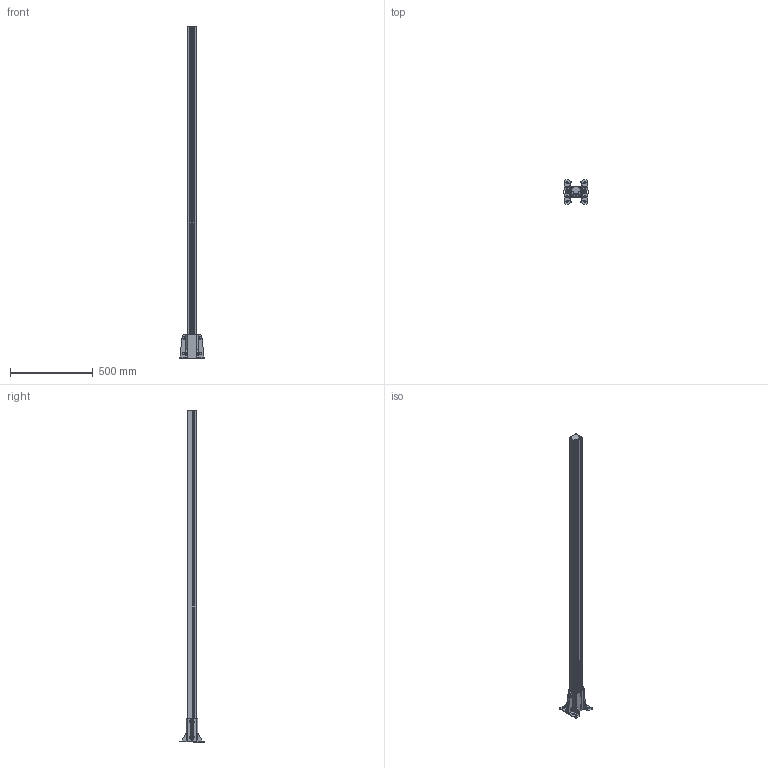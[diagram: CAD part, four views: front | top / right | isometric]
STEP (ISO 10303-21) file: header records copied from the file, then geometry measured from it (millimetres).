
FILE_DESCRIPTION(/* description */ (''),/* implementation_level */ '2;1');
FILE_NAME(/* name */ 'Z:\Marketing\fastline\Palo H=2000.stp',/* time_stamp */ '2021-10-15T14:58:52+02:00',/* author */ ('mpistoia'),/* organization */ (''),/* preprocessor_version */ 'ST-DEVELOPER v17.2',/* originating_system */ 'Autodesk Inventor 2019',/* authorisation */ '');
FILE_SCHEMA (('AUTOMOTIVE_DESIGN { 1 0 10303 214 3 1 1 }'));
Length unit declared in the file: millimetre
Products named in the file (1): Palo H=2000
Bounding box: 145.13 x 146.95 x 2003 mm (x, y, z)
Volume: 1601839.9 mm3; surface area: 1432375.2 mm2
Topology: 1 solids, 1 shells, 567 faces, 1528 edges, 970 vertices
Faces by surface type: plane 339, cylinder 154, cone 56, torus 14, bspline 4
Full cylindrical faces by diameter (mm): 7.5 x4, 8 x4, 9.5 x2, 13.2 x8
Entity records: 18449 total; most frequent: CARTESIAN_POINT 3605, ORIENTED_EDGE 3056, DIRECTION 2975, EDGE_CURVE 1528, AXIS2_PLACEMENT_3D 1022, VERTEX_POINT 970, LINE 931, VECTOR 931
